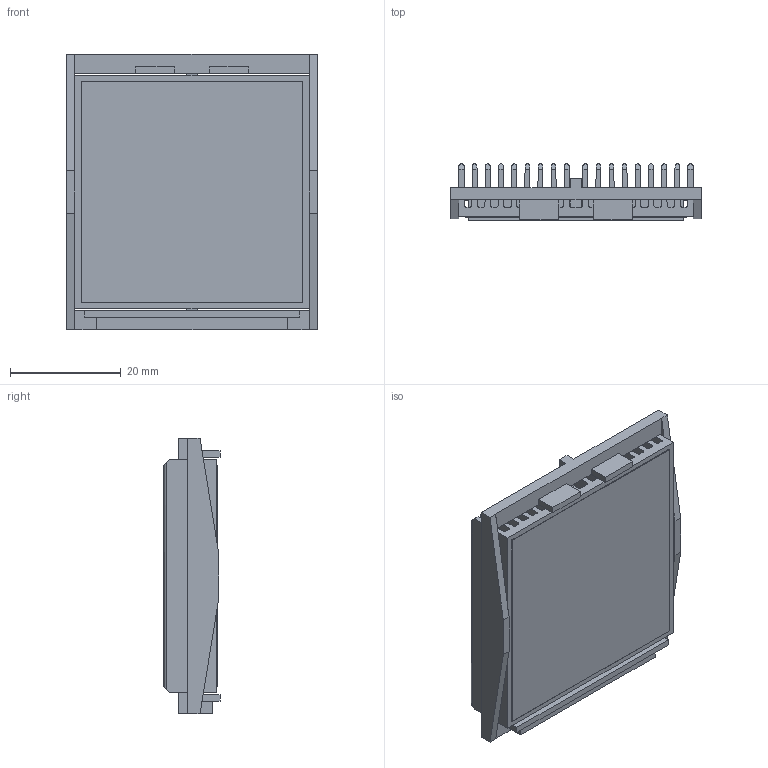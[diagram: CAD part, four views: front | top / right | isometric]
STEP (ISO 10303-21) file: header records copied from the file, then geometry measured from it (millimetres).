
FILE_DESCRIPTION (( 'STEP AP214' ), '1' );
FILE_NAME ('INL42.5001-10-1.7O.STEP', '2023-03-01T18:24:44', ( '' ), ( '' ), 'SwSTEP 2.0', 'SolidWorks 2020', '' );
FILE_SCHEMA (( 'AUTOMOTIVE_DESIGN' ));
Length unit declared in the file: millimetre
Products named in the file (1): INL42.5001-10-1.7O
Bounding box: 45.2 x 10.1 x 49.6 mm (x, y, z)
Volume: 10406.6 mm3; surface area: 21374.2 mm2
Topology: 3 solids, 3 shells, 198 faces, 578 edges, 384 vertices
Faces by surface type: plane 146, cylinder 52
Entity records: 8712 total; most frequent: CARTESIAN_POINT 1269, ORIENTED_EDGE 1156, DIRECTION 1008, EDGE_CURVE 578, VECTOR 474, LINE 474, VERTEX_POINT 384, AXIS2_PLACEMENT_3D 267
